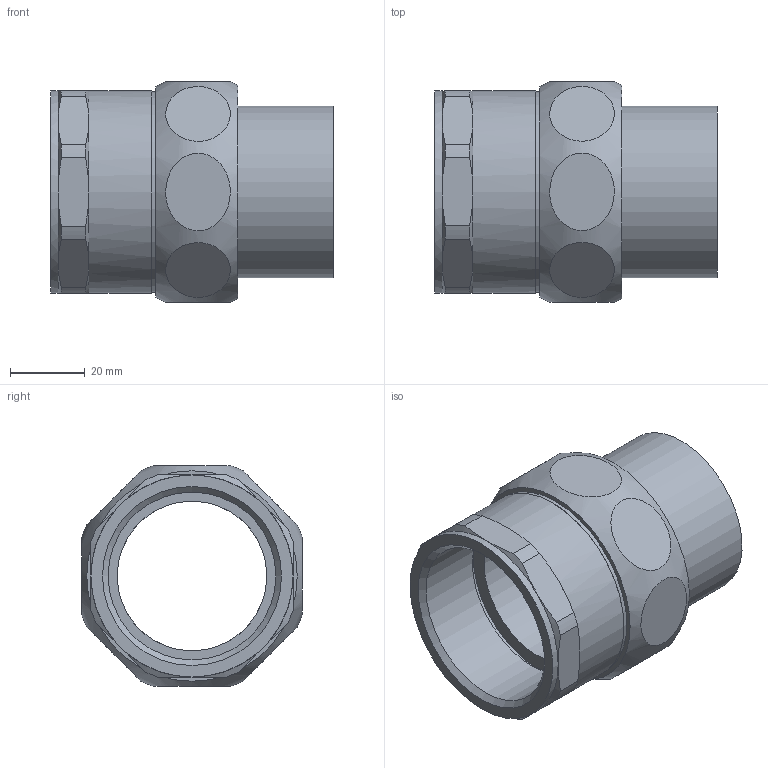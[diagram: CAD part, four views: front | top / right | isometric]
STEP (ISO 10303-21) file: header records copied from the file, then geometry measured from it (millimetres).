
FILE_DESCRIPTION((''),'2;1');
FILE_NAME('\\lg50001\SANHA_Legnica\Engineering\Public\RYSUNKI\SANHA POLSKA\4340\inventor\14340_42-112(1).stp','2014-08-25T14:30:27',('gomulka'),(''),'Autodesk Inventor 2009','Autodesk Inventor 2009','');
FILE_SCHEMA(('AUTOMOTIVE_DESIGN { 1 0 10303 214 1 1 1 1 }'));
Length unit declared in the file: millimetre
Products named in the file (4): 14340_42-112(1); 14380_112-134(1); 14381_42-134(2); 14374_134(2)
Assembly tree (3 placements, depth 2):
  14340_42-112(1)
    14380_112-134(1)
    14381_42-134(2)
    14374_134(2)
Bounding box: 75.56 x 59 x 59 mm (x, y, z)
Volume: 63379.8 mm3; surface area: 35136.9 mm2
Topology: 3 solids, 3 shells, 71 faces, 140 edges, 87 vertices
Faces by surface type: plane 27, cone 21, cylinder 20, bspline 2, torus 1
Full cylindrical faces by diameter (mm): 40 x2, 42 x1, 44.845 x1, 45.9 x1, 48 x1, 48.2 x1, 50.5 x1, 50.788 x1, 53.746 x1, 54 x2
Entity records: 3254 total; most frequent: CARTESIAN_POINT 1808, DIRECTION 292, ORIENTED_EDGE 236, AXIS2_PLACEMENT_3D 138, EDGE_CURVE 118, EDGE_LOOP 110, VERTEX_POINT 86, FACE_OUTER_BOUND 71
